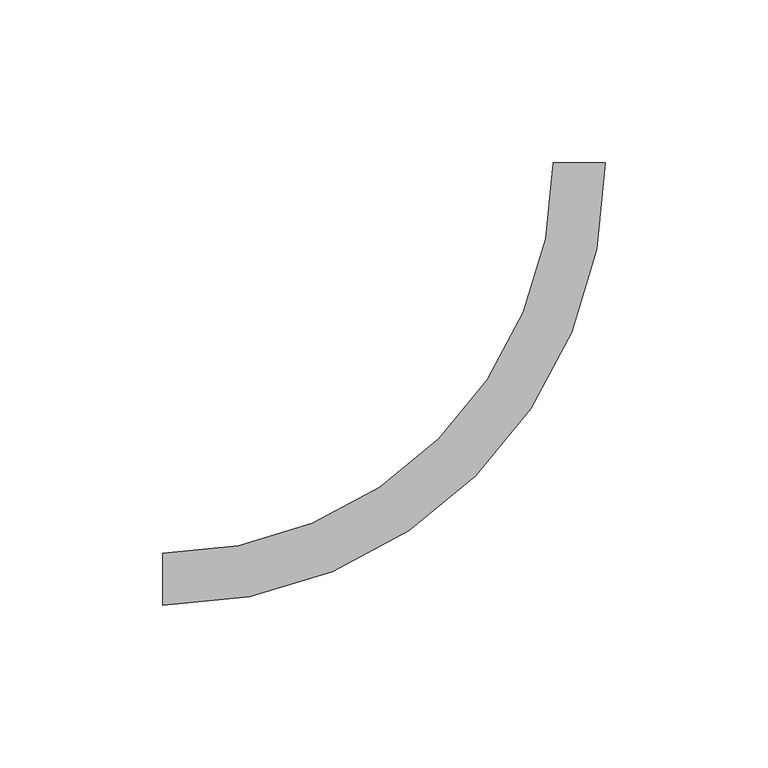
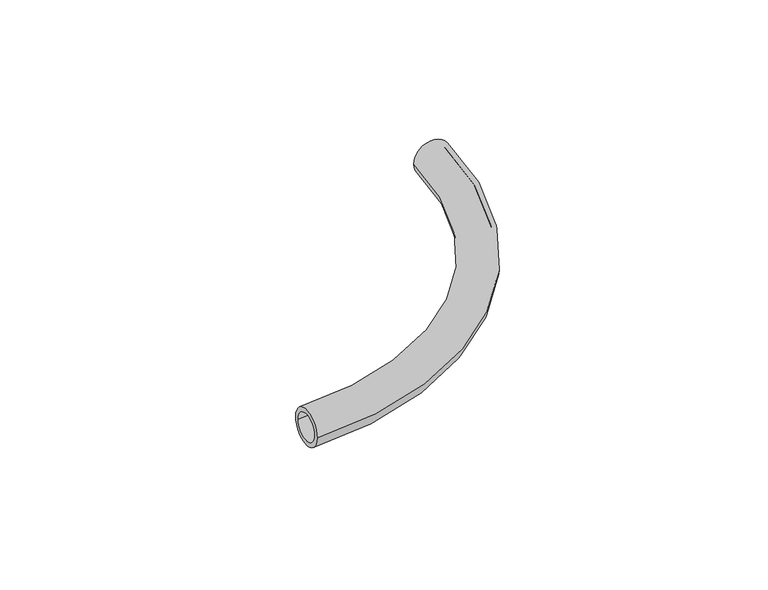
"""IFC4 building model written with IfcOpenShell, lengths in millimetres: pipe fitting geometry, FASTLOC_ML_bend : FSL ML AT."""

from ifc_helpers import new_model, si_unit, point, frame, origin, place, context, project, spatial, circle_curve, ellipse_curve, trimmed, source, transform, mapped, element, save
from ifc_brep_helpers import plane_surface, revolved_surface, advanced_brep


def pipe_fitting_8a207ca9(model_context):
    return source(origin(), model_context, "Body", "AdvancedBrep", [
        advanced_brep(
        [(-128.0, -8.0, 0.0), (-128.0, 8.0, 0.0), (-128.0, -6.0, 0.0), (-128.0, 6.0, 0.0), (8.0, 128.0, 0.0), (-8.0, 128.0, 0.0), (6.0, 128.0, 0.0), (-6.0, 128.0, 0.0)],
        [
            (0, 1, circle_curve(frame((-128.0, 0.0, 0.0), z_axis=(-1.0, 0.0, 0.0), x_axis=(0.0, 1.0, 0.0)), 8.0)),
            (1, 0, circle_curve(frame((-128.0, 0.0, 0.0), z_axis=(-1.0, 0.0, 0.0), x_axis=(0.0, 1.0, 0.0)), 8.0)),
            (2, 3, circle_curve(frame((-128.0, 0.0, 0.0), z_axis=(1.0, 0.0, 0.0), x_axis=(0.0, 1.0, 0.0)), 6.0)),
            (3, 2, circle_curve(frame((-128.0, 0.0, 0.0), z_axis=(1.0, 0.0, 0.0), x_axis=(0.0, 1.0, 0.0)), 6.0)),
            (4, 5, circle_curve(frame((0.0, 128.0, 0.0), z_axis=(0.0, 1.0, 0.0), x_axis=(-1.0, 0.0, 0.0)), 8.0)),
            (5, 4, circle_curve(frame((0.0, 128.0, 0.0), z_axis=(0.0, 1.0, 0.0), x_axis=(-1.0, 0.0, 0.0)), 8.0)),
            (6, 7, circle_curve(frame((0.0, 128.0, 0.0), z_axis=(0.0, -1.0, 0.0), x_axis=(-1.0, 0.0, 0.0)), 6.0)),
            (7, 6, circle_curve(frame((0.0, 128.0, 0.0), z_axis=(0.0, -1.0, 0.0), x_axis=(-1.0, 0.0, 0.0)), 6.0)),
            (7, 3, circle_curve(frame((-128.0, 128.0, 0.0), z_axis=(0.0, 0.0, -1.0), x_axis=(0.0, -1.0, 0.0)), 122.0)),
            (2, 6, circle_curve(frame((-128.0, 128.0, 0.0), z_axis=(0.0, 0.0, 1.0), x_axis=(0.0, -1.0, 0.0)), 134.0)),
            (5, 1, circle_curve(frame((-128.0, 128.0, 0.0), z_axis=(0.0, 0.0, -1.0), x_axis=(0.0, -1.0, 0.0)), 120.0)),
            (0, 4, circle_curve(frame((-128.0, 128.0, 0.0), z_axis=(0.0, 0.0, 1.0), x_axis=(0.0, -1.0, 0.0)), 136.0)),
        ],
        [
            plane_surface(frame((-128.0, 0.0, 0.0), z_axis=(-1.0, 0.0, 0.0), x_axis=(0.0, 0.0, 1.0))),
            plane_surface(frame((0.0, 128.0, 0.0), z_axis=(0.0, 1.0, 0.0), x_axis=(0.0, 0.0, 1.0))),
            revolved_surface(trimmed(ellipse_curve(frame((-128.0, 0.0, 0.0), z_axis=(1.0, 0.0, 0.0), x_axis=(0.0, 1.0, 0.0)), 6.0, 6.0), [point((-128.0, -6.0, 0.0))], [point((-128.0, 6.0, 0.0))], True, "CARTESIAN"), (-128.0, 128.0, 0.0), (0.0, 0.0, 1.0)),
            revolved_surface(trimmed(ellipse_curve(frame((-128.0, 0.0, 0.0), z_axis=(1.0, 0.0, 0.0), x_axis=(0.0, 1.0, 0.0)), 6.0, 6.0), [point((-128.0, 6.0, 0.0))], [point((-128.0, -6.0, 0.0))], True, "CARTESIAN"), (-128.0, 128.0, 0.0), (0.0, 0.0, 1.0)),
            revolved_surface(trimmed(ellipse_curve(frame((-128.0, 0.0, 0.0), z_axis=(-1.0, 0.0, 0.0), x_axis=(0.0, 1.0, 0.0)), 8.0, 8.0), [point((-128.0, -8.0, 0.0))], [point((-128.0, 8.0, 0.0))], True, "CARTESIAN"), (-128.0, 128.0, 0.0), (0.0, 0.0, 1.0)),
            revolved_surface(trimmed(ellipse_curve(frame((-128.0, 0.0, 0.0), z_axis=(-1.0, 0.0, 0.0), x_axis=(0.0, 1.0, 0.0)), 8.0, 8.0), [point((-128.0, 8.0, 0.0))], [point((-128.0, -8.0, 0.0))], True, "CARTESIAN"), (-128.0, 128.0, 0.0), (0.0, 0.0, 1.0)),
        ],
        [
            (0, [[1, 2], [3, 4]]),
            (1, [[5, 6], [7, 8]]),
            (2, [[9, -3, 10, -8]]),
            (3, [[-10, -4, -9, -7]]),
            (4, [[11, -1, 12, -6]]),
            (5, [[-12, -2, -11, -5]]),
        ],
    ),
    ])


if __name__ == "__main__":
    model = new_model("IFC4")
    model_context = context("Model", 3, world=origin())
    ifc_project = project(units=[si_unit("LENGTHUNIT", "METRE", prefix="MILLI")], contexts=[model_context])
    site = spatial("IfcSite", under=ifc_project)
    building = spatial("IfcBuilding", under=site)
    placement = place(None, origin())
    pipe_fitting_shape = pipe_fitting_8a207ca9(model_context)
    element("IfcPipeFitting", 1, ObjectType="FASTLOC_ML_bend : FSL ML AT", at=placement, inside=building, context=model_context, shape_type="MappedRepresentation", body=[
        mapped(pipe_fitting_shape, transform((0.0, 0.0, 0.0), x_axis=(1.0, 0.0, 0.0), y_axis=(0.0, 1.0, 0.0), z_axis=(0.0, 0.0, 1.0))),
    ])
    save(model, "model.ifc")
